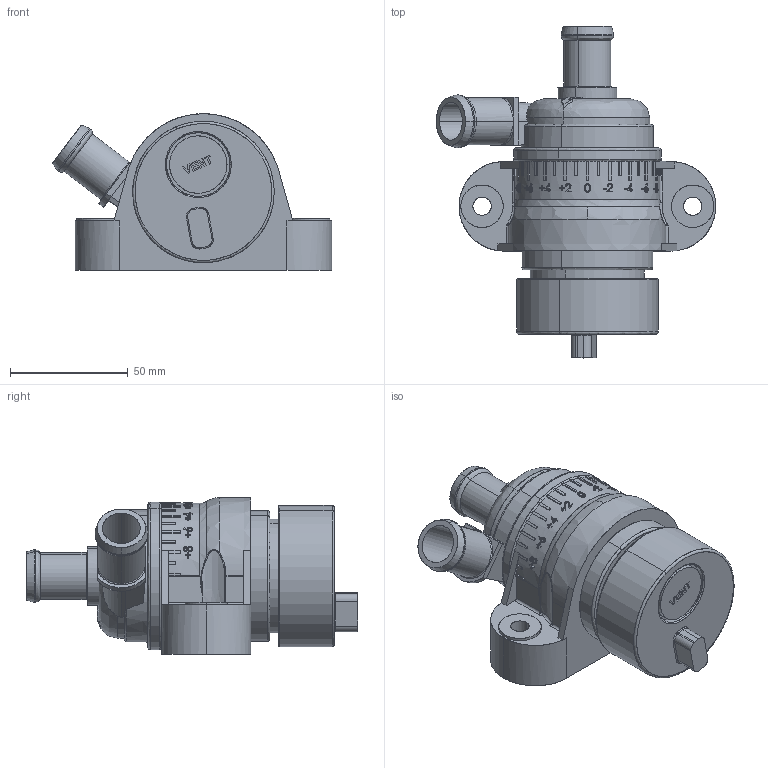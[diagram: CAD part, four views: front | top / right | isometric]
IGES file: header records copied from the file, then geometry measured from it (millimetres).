
Start section: Tecomotive IGES file using analytic representation for surfaces
Global section: file name:                                                                                                                                            ; native system: Tecomotive 2020; preprocessor: Tecomotive 2020; author: Tecomotiv; organization: e; date: 220618.150110; units: millimetre
Bounding box: 118.68 x 141 x 66.6 mm (x, y, z)
Surface area: 57944.2 mm2 (no closed solid volume)
Topology: 0 solids, 0 shells, 563 faces, 5816 edges, 5816 vertices
Faces by surface type: bspline 439, revolution 124
